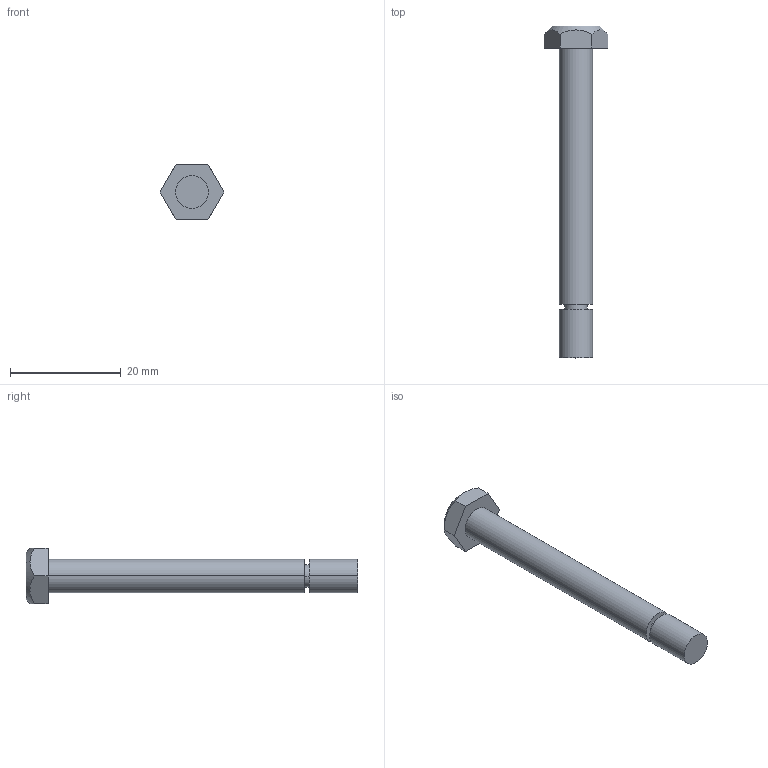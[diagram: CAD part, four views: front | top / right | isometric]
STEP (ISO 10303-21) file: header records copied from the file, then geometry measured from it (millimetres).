
FILE_DESCRIPTION(('CATIA V5 STEP Exchange'),'2;1');
FILE_NAME('E:\张磊\转盘自研\外发冻结数据图纸\2D\2022.11.18-单件图纸\SHT0015138-解锁钣金安装螺栓\SHT0015138-20230510.stp','2023-05-10T12:22:21+00:00',('none'),('none'),'CATIA Version 5 Release 20 GA (IN-10)','CATIA V5 STEP AP214','none');
FILE_SCHEMA(('AUTOMOTIVE_DESIGN { 1 0 10303 214 1 1 1 1 }'));
Length unit declared in the file: millimetre
Products named in the file (1): Part28
Bounding box: 11.55 x 60 x 10 mm (x, y, z)
Volume: 1900.8 mm3; surface area: 1371.5 mm2
Topology: 1 solids, 1 shells, 20 faces, 43 edges, 28 vertices
Faces by surface type: plane 11, cylinder 6, cone 3
Entity records: 603 total; most frequent: CARTESIAN_POINT 166, ORIENTED_EDGE 86, DIRECTION 71, EDGE_CURVE 43, AXIS2_PLACEMENT_3D 33, VERTEX_POINT 28, EDGE_LOOP 23, VECTOR 21
